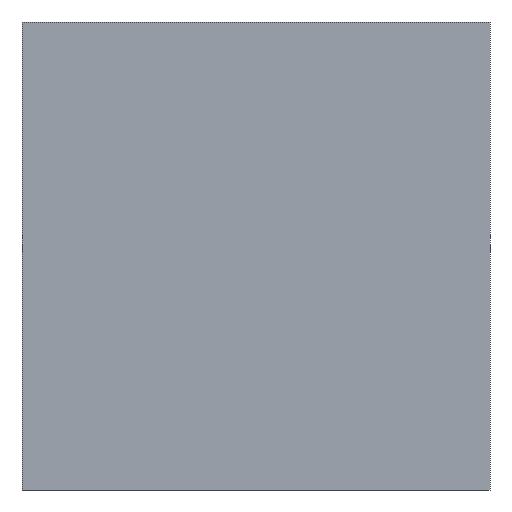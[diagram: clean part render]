
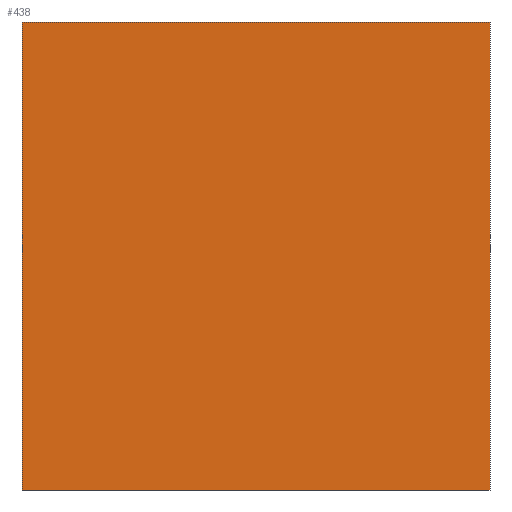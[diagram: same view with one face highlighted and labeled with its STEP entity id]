
A CAD part, left-side view. The second image highlights one B-rep face of the part: STEP entity #438.
In plain terms, the highlighted planar face has unit normal (-1, 0, 0).
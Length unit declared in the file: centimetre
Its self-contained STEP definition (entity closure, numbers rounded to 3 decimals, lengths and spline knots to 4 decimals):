
#27 = VERTEX_POINT ( 'NONE', #75 ) ;
#31 = VECTOR ( 'NONE', #98, 100. ) ;
#70 = ORIENTED_EDGE ( 'NONE', *, *, #323, .T. ) ;
#71 = LINE ( 'NONE', #101, #398 ) ;
#74 = CARTESIAN_POINT ( 'NONE',  ( 0., 1000., 1000. ) ) ;
#75 = CARTESIAN_POINT ( 'NONE',  ( 0., 1000., 0. ) ) ;
#88 = VECTOR ( 'NONE', #245, 100. ) ;
#90 = EDGE_CURVE ( 'NONE', #254, #27, #347, .T. ) ;
#98 = DIRECTION ( 'NONE',  ( 0., 0., -1. ) ) ;
#101 = CARTESIAN_POINT ( 'NONE',  ( 0., 1000., 0. ) ) ;
#103 = ORIENTED_EDGE ( 'NONE', *, *, #402, .F. ) ;
#110 = LINE ( 'NONE', #422, #427 ) ;
#117 = CARTESIAN_POINT ( 'NONE',  ( 0., 0., 1000. ) ) ;
#127 = ORIENTED_EDGE ( 'NONE', *, *, #368, .F. ) ;
#140 = DIRECTION ( 'NONE',  ( 0., -1., 0. ) ) ;
#165 = ORIENTED_EDGE ( 'NONE', *, *, #90, .T. ) ;
#166 = CARTESIAN_POINT ( 'NONE',  ( 0., 0., 0. ) ) ;
#194 = VERTEX_POINT ( 'NONE', #117 ) ;
#196 = DIRECTION ( 'NONE',  ( 0., -1., 0. ) ) ;
#206 = DIRECTION ( 'NONE',  ( 1., 0., 0. ) ) ;
#235 = CARTESIAN_POINT ( 'NONE',  ( 0., 1000., 1000. ) ) ;
#236 = CARTESIAN_POINT ( 'NONE',  ( 0., 1000., 1000. ) ) ;
#239 = DIRECTION ( 'NONE',  ( 0., 0., -1. ) ) ;
#245 = DIRECTION ( 'NONE',  ( 0., 0., -1. ) ) ;
#254 = VERTEX_POINT ( 'NONE', #74 ) ;
#281 = FACE_OUTER_BOUND ( 'NONE', #296, .T. ) ;
#296 = EDGE_LOOP ( 'NONE', ( #70, #127, #103, #165 ) ) ;
#301 = CARTESIAN_POINT ( 'NONE',  ( 0., 0., 1000. ) ) ;
#323 = EDGE_CURVE ( 'NONE', #27, #362, #71, .T. ) ;
#340 = AXIS2_PLACEMENT_3D ( 'NONE', #236, #206, #239 ) ;
#343 = LINE ( 'NONE', #301, #31 ) ;
#347 = LINE ( 'NONE', #235, #88 ) ;
#362 = VERTEX_POINT ( 'NONE', #166 ) ;
#368 = EDGE_CURVE ( 'NONE', #194, #362, #343, .T. ) ;
#398 = VECTOR ( 'NONE', #196, 100. ) ;
#402 = EDGE_CURVE ( 'NONE', #254, #194, #110, .T. ) ;
#418 = PLANE ( 'NONE',  #340 ) ;
#422 = CARTESIAN_POINT ( 'NONE',  ( 0., 1000., 1000. ) ) ;
#427 = VECTOR ( 'NONE', #140, 100. ) ;
#438 = ADVANCED_FACE ( 'NONE', ( #281 ), #418, .F. ) ;
